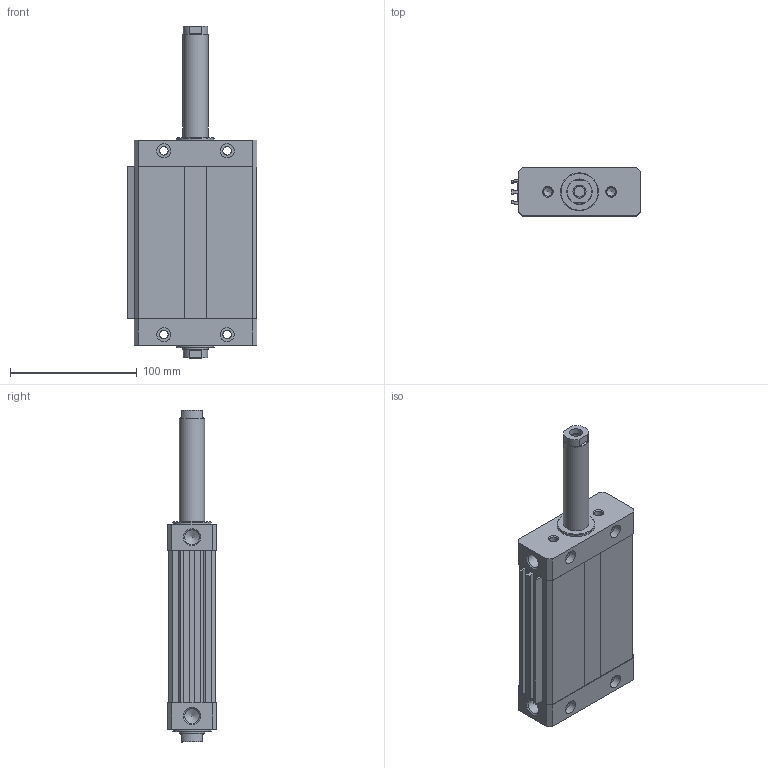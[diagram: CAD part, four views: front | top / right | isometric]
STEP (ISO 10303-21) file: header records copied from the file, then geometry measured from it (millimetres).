
FILE_DESCRIPTION((''),'2;1');
FILE_NAME('I:\Area Tecnica\Disegni\VARIE-3D\Componenti\1370 - CPO\1370_##_0000_03\1370_50_0080_03-01.iam.step','2010-12-16T10:58:20',(''),(''),'Autodesk Inventor 2011','Autodesk Inventor 2011','');
FILE_SCHEMA(('AUTOMOTIVE_DESIGN { 1 0 10303 214 1 1 1 1 }'));
Length unit declared in the file: millimetre
Products named in the file (5): 1370_50_0080_03-01; 1370_05_50_0000; 1370_06_50_0080; 1370_08_50_0000; 1370_3_50_0080
Assembly tree (4 placements, depth 2):
  1370_50_0080_03-01
    1370_05_50_0000
    1370_06_50_0080
    1370_08_50_0000
    1370_3_50_0080
Bounding box: 102.5 x 38 x 262 mm (x, y, z)
Volume: 463982 mm3; surface area: 125411 mm2
Topology: 4 solids, 4 shells, 164 faces, 398 edges, 252 vertices
Faces by surface type: plane 94, cylinder 50, cone 20
Full cylindrical faces by diameter (mm): 6.8 x18, 8.5 x2, 10.3 x2, 11 x8, 11.75 x2, 20 x4, 30 x2
Entity records: 4722 total; most frequent: DIRECTION 794, CARTESIAN_POINT 737, ORIENTED_EDGE 652, EDGE_CURVE 326, AXIS2_PLACEMENT_3D 295, EDGE_LOOP 254, VERTEX_POINT 238, VECTOR 204
